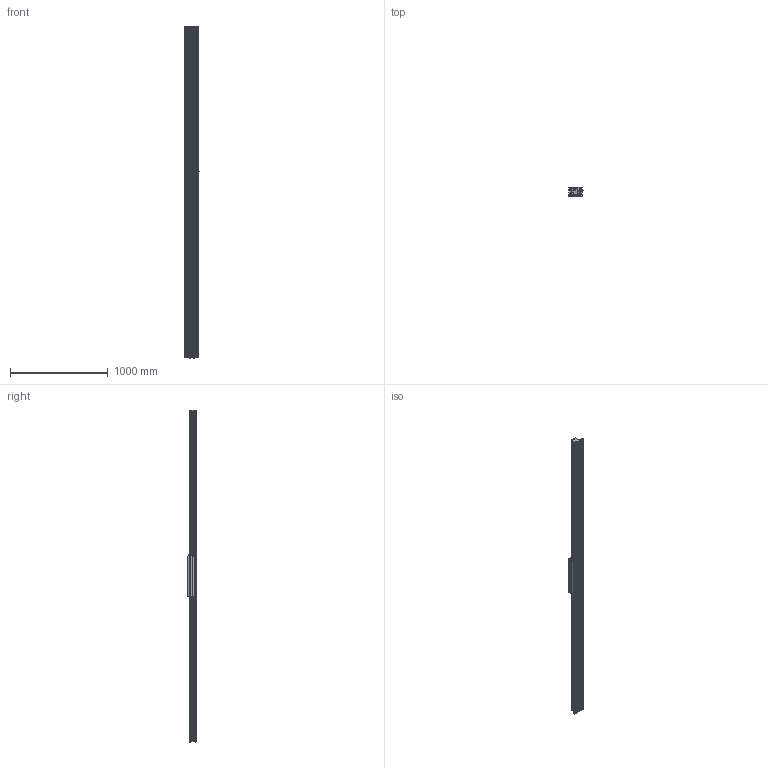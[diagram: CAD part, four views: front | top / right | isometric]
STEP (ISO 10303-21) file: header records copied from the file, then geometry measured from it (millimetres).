
FILE_DESCRIPTION (( 'STEP AP214' ), '1' );
FILE_NAME ('SINADRIVES Linear Motor Stage MLL20630XS-XX-1-0-ST-00-03396.STEP', '2015-07-07T08:12:36', ( 'Tecnico' ), ( '' ), 'SwSTEP 2.0', 'SolidWorks 2009', '' );
FILE_SCHEMA (( 'AUTOMOTIVE_DESIGN' ));
Length unit declared in the file: millimetre
Products named in the file (7): SINADRIVES CARRIAGE MLL20630XS-1; CARRIAGE MLL20630; Connector power+signal Y-tec 45; SINADRIVES PROFILE MLL2XXXX-3380; SINADRIVES ENDBLOCK MLL2; SINADRIVES ENDBLOCK MLL2-2; SINADRIVES Linear Motor Stage MLL20630XS-XX-1-0-ST-00-03396
Assembly tree (6 placements, depth 3):
  SINADRIVES Linear Motor Stage MLL20630XS-XX-1-0-ST-00-03396
    SINADRIVES PROFILE MLL2XXXX-3380
    SINADRIVES ENDBLOCK MLL2-2
    SINADRIVES ENDBLOCK MLL2
    SINADRIVES CARRIAGE MLL20630XS-1
      Connector power+signal Y-tec 45
      CARRIAGE MLL20630
Bounding box: 144.43 x 91 x 3404.8 mm (x, y, z)
Volume: 15869451.1 mm3; surface area: 2705323.9 mm2
Topology: 2 solids, 42 shells, 950 faces, 2640 edges, 1730 vertices
Faces by surface type: plane 445, cylinder 302, bspline 79, cone 70, torus 42, sphere 12
Entity records: 40587 total; most frequent: CARTESIAN_POINT 8656, ORIENTED_EDGE 5024, DIRECTION 4947, EDGE_CURVE 2622, AXIS2_PLACEMENT_3D 1781, VERTEX_POINT 1730, VECTOR 1385, LINE 1385
